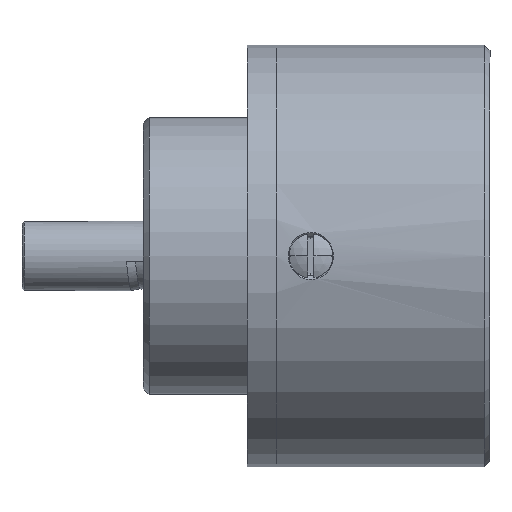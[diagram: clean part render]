
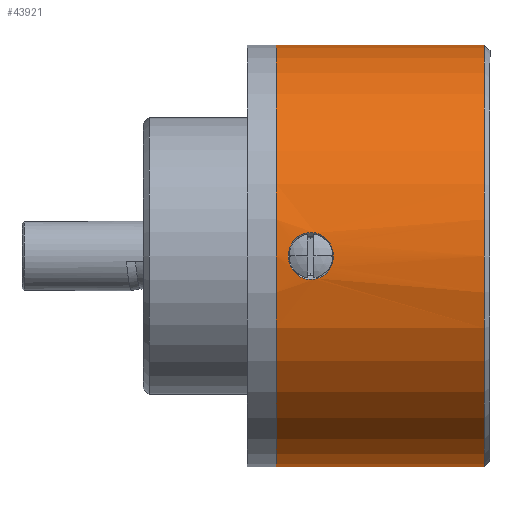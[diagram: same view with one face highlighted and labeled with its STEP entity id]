
A CAD part, front view. The second image highlights one B-rep face of the part: STEP entity #43921.
In plain terms, the highlighted cylindrical face has radius 18.25 mm (diameter 36.5 mm), a partial arc.
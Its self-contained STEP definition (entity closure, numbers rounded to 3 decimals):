
#65 = CARTESIAN_POINT ( 'NONE',  ( 24.9, -2.81, 14.723 ) ) ;
#436 = VECTOR ( 'NONE', #6276, 1000. ) ;
#998 = CARTESIAN_POINT ( 'NONE',  ( 25.649, -2.738, 16.353 ) ) ;
#1048 = CARTESIAN_POINT ( 'NONE',  ( 41.843, 15.44, -3.527 ) ) ;
#1175 = CARTESIAN_POINT ( 'NONE',  ( 28.588, -2.788, 15.628 ) ) ;
#2392 = EDGE_CURVE ( 'NONE', #6927, #11541, #6876, .T. ) ;
#2473 = EDGE_CURVE ( 'NONE', #23702, #40684, #12890, .T. ) ;
#2637 = EDGE_CURVE ( 'NONE', #23702, #16837, #33571, .T. ) ;
#2646 = EDGE_CURVE ( 'NONE', #40684, #25916, #14191, .T. ) ;
#2959 = AXIS2_PLACEMENT_3D ( 'NONE', #34904, #10128, #39040 ) ;
#3537 = CARTESIAN_POINT ( 'NONE',  ( 28.786, -2.81, 14.453 ) ) ;
#3670 = CARTESIAN_POINT ( 'NONE',  ( 24.9, -2.81, 14.723 ) ) ;
#4087 = CARTESIAN_POINT ( 'NONE',  ( 27.097, -2.695, 12.685 ) ) ;
#5216 = CARTESIAN_POINT ( 'NONE',  ( 26.217, -2.707, 16.656 ) ) ;
#5397 = CARTESIAN_POINT ( 'NONE',  ( 28.786, -2.81, 14.987 ) ) ;
#6115 = CARTESIAN_POINT ( 'NONE',  ( 23.843, 15.44, -3.527 ) ) ;
#6276 = DIRECTION ( 'NONE',  ( 1., 0., 0. ) ) ;
#6876 = B_SPLINE_CURVE_WITH_KNOTS ( 'NONE', 3,
 ( #17624, #13426, #17105, #46305, #21787, #50405, #25900, #998, #30065, #5216, #34181, #9425, #38334, #13614, #42423, #17804, #46471, #21953, #50568, #26076, #1175, #30235, #5397, #34369 ),
 .UNSPECIFIED., .F., .F.,
 ( 4, 2, 2, 2, 2, 2, 2, 2, 2, 2, 2, 4 ),
 ( 0., 0.031, 0.063, 0.125, 0.188, 0.219, 0.25, 0.313, 0.375, 0.406, 0.438, 0.5 ),
 .UNSPECIFIED. ) ;
#6927 = VERTEX_POINT ( 'NONE', #3670 ) ;
#8110 = CARTESIAN_POINT ( 'NONE',  ( 28.786, -2.81, 14.72 ) ) ;
#8229 = AXIS2_PLACEMENT_3D ( 'NONE', #14751, #43546, #18940 ) ;
#8283 = CARTESIAN_POINT ( 'NONE',  ( 26.332, -2.702, 12.738 ) ) ;
#8702 = CIRCLE ( 'NONE', #8229, 18.25 ) ;
#9425 = CARTESIAN_POINT ( 'NONE',  ( 26.588, -2.697, 16.747 ) ) ;
#9927 = DIRECTION ( 'NONE',  ( 0., 0., 1. ) ) ;
#10128 = DIRECTION ( 'NONE',  ( -1., 0., 0. ) ) ;
#11541 = VERTEX_POINT ( 'NONE', #11949 ) ;
#11949 = CARTESIAN_POINT ( 'NONE',  ( 28.786, -2.81, 14.72 ) ) ;
#12518 = CARTESIAN_POINT ( 'NONE',  ( 25.869, -2.724, 12.954 ) ) ;
#12586 = ORIENTED_EDGE ( 'NONE', *, *, #2637, .T. ) ;
#12890 = CIRCLE ( 'NONE', #2959, 18.25 ) ;
#13209 = EDGE_LOOP ( 'NONE', ( #14503, #12586, #46640, #50474 ) ) ;
#13426 = CARTESIAN_POINT ( 'NONE',  ( 24.9, -2.81, 14.857 ) ) ;
#13614 = CARTESIAN_POINT ( 'NONE',  ( 27.096, -2.695, 16.76 ) ) ;
#14191 = LINE ( 'NONE', #43477, #436 ) ;
#14503 = ORIENTED_EDGE ( 'NONE', *, *, #2473, .F. ) ;
#14751 = CARTESIAN_POINT ( 'NONE',  ( 41.843, 15.44, 14.723 ) ) ;
#15137 = ORIENTED_EDGE ( 'NONE', *, *, #2392, .T. ) ;
#16512 = CARTESIAN_POINT ( 'NONE',  ( 28.539, -2.782, 13.694 ) ) ;
#16690 = CARTESIAN_POINT ( 'NONE',  ( 25.558, -2.745, 13.188 ) ) ;
#16837 = VERTEX_POINT ( 'NONE', #1048 ) ;
#17105 = CARTESIAN_POINT ( 'NONE',  ( 24.912, -2.808, 14.991 ) ) ;
#17563 = FACE_OUTER_BOUND ( 'NONE', #13209, .T. ) ;
#17624 = CARTESIAN_POINT ( 'NONE',  ( 24.9, -2.81, 14.723 ) ) ;
#17804 = CARTESIAN_POINT ( 'NONE',  ( 27.822, -2.723, 16.503 ) ) ;
#18940 = DIRECTION ( 'NONE',  ( 0., 0., -1. ) ) ;
#20674 = CARTESIAN_POINT ( 'NONE',  ( 28.126, -2.745, 13.186 ) ) ;
#20855 = CARTESIAN_POINT ( 'NONE',  ( 25.145, -2.782, 13.696 ) ) ;
#21787 = CARTESIAN_POINT ( 'NONE',  ( 24.999, -2.798, 15.379 ) ) ;
#21953 = CARTESIAN_POINT ( 'NONE',  ( 28.307, -2.76, 16.069 ) ) ;
#22598 = VECTOR ( 'NONE', #31157, 1000. ) ;
#23702 = VERTEX_POINT ( 'NONE', #24993 ) ;
#24800 = CARTESIAN_POINT ( 'NONE',  ( 27.815, -2.724, 12.953 ) ) ;
#24973 = CARTESIAN_POINT ( 'NONE',  ( 24.9, -2.81, 14.455 ) ) ;
#24993 = CARTESIAN_POINT ( 'NONE',  ( 23.843, 15.44, -3.527 ) ) ;
#25539 = CARTESIAN_POINT ( 'NONE',  ( 23.843, 15.44, 32.973 ) ) ;
#25900 = CARTESIAN_POINT ( 'NONE',  ( 25.289, -2.768, 15.975 ) ) ;
#25916 = VERTEX_POINT ( 'NONE', #51829 ) ;
#26076 = CARTESIAN_POINT ( 'NONE',  ( 28.529, -2.781, 15.744 ) ) ;
#26217 = DIRECTION ( 'NONE',  ( 1., 0., 0. ) ) ;
#27757 = AXIS2_PLACEMENT_3D ( 'NONE', #46792, #26217, #9927 ) ;
#28274 = B_SPLINE_CURVE_WITH_KNOTS ( 'NONE', 3,
 ( #8110, #3537, #41150, #16512, #45226, #20674, #49308, #24800, #53395, #28947, #4087, #33116, #8283, #37242, #12518, #41321, #16690, #45409, #20855, #49464, #24973, #65 ),
 .UNSPECIFIED., .F., .F.,
 ( 4, 2, 2, 2, 2, 2, 2, 2, 2, 2, 4 ),
 ( 0.5, 0.563, 0.625, 0.656, 0.687, 0.75, 0.812, 0.844, 0.875, 0.937, 1. ),
 .UNSPECIFIED. ) ;
#28947 = CARTESIAN_POINT ( 'NONE',  ( 27.35, -2.702, 12.737 ) ) ;
#29835 = FACE_BOUND ( 'NONE', #51835, .T. ) ;
#30065 = CARTESIAN_POINT ( 'NONE',  ( 25.864, -2.723, 16.503 ) ) ;
#30235 = CARTESIAN_POINT ( 'NONE',  ( 28.736, -2.803, 15.256 ) ) ;
#31157 = DIRECTION ( 'NONE',  ( 1., 0., 0. ) ) ;
#33116 = CARTESIAN_POINT ( 'NONE',  ( 26.587, -2.695, 12.685 ) ) ;
#33571 = LINE ( 'NONE', #6115, #22598 ) ;
#33873 = ORIENTED_EDGE ( 'NONE', *, *, #52381, .T. ) ;
#34181 = CARTESIAN_POINT ( 'NONE',  ( 26.337, -2.703, 16.695 ) ) ;
#34313 = CYLINDRICAL_SURFACE ( 'NONE', #27757, 18.25 ) ;
#34369 = CARTESIAN_POINT ( 'NONE',  ( 28.786, -2.81, 14.72 ) ) ;
#34904 = CARTESIAN_POINT ( 'NONE',  ( 23.843, 15.44, 14.723 ) ) ;
#37242 = CARTESIAN_POINT ( 'NONE',  ( 25.98, -2.718, 12.892 ) ) ;
#38334 = CARTESIAN_POINT ( 'NONE',  ( 26.717, -2.695, 16.76 ) ) ;
#39040 = DIRECTION ( 'NONE',  ( 0., 0., -1. ) ) ;
#40684 = VERTEX_POINT ( 'NONE', #25539 ) ;
#41150 = CARTESIAN_POINT ( 'NONE',  ( 28.735, -2.803, 14.188 ) ) ;
#41321 = CARTESIAN_POINT ( 'NONE',  ( 25.657, -2.738, 13.103 ) ) ;
#42423 = CARTESIAN_POINT ( 'NONE',  ( 27.351, -2.702, 16.708 ) ) ;
#43477 = CARTESIAN_POINT ( 'NONE',  ( 23.843, 15.44, 32.973 ) ) ;
#43546 = DIRECTION ( 'NONE',  ( -1., 0., 0. ) ) ;
#43921 = ADVANCED_FACE ( 'NONE', ( #29835, #17563 ), #34313, .T. ) ;
#45226 = CARTESIAN_POINT ( 'NONE',  ( 28.397, -2.768, 13.47 ) ) ;
#45409 = CARTESIAN_POINT ( 'NONE',  ( 25.288, -2.768, 13.471 ) ) ;
#46305 = CARTESIAN_POINT ( 'NONE',  ( 24.962, -2.802, 15.252 ) ) ;
#46471 = CARTESIAN_POINT ( 'NONE',  ( 28.035, -2.738, 16.354 ) ) ;
#46640 = ORIENTED_EDGE ( 'NONE', *, *, #53382, .T. ) ;
#46792 = CARTESIAN_POINT ( 'NONE',  ( 23.843, 15.44, 14.723 ) ) ;
#49308 = CARTESIAN_POINT ( 'NONE',  ( 28.027, -2.738, 13.101 ) ) ;
#49464 = CARTESIAN_POINT ( 'NONE',  ( 24.95, -2.803, 14.19 ) ) ;
#50405 = CARTESIAN_POINT ( 'NONE',  ( 25.145, -2.782, 15.75 ) ) ;
#50474 = ORIENTED_EDGE ( 'NONE', *, *, #2646, .F. ) ;
#50568 = CARTESIAN_POINT ( 'NONE',  ( 28.388, -2.768, 15.966 ) ) ;
#51829 = CARTESIAN_POINT ( 'NONE',  ( 41.843, 15.44, 32.973 ) ) ;
#51835 = EDGE_LOOP ( 'NONE', ( #15137, #33873 ) ) ;
#52381 = EDGE_CURVE ( 'NONE', #11541, #6927, #28274, .T. ) ;
#53382 = EDGE_CURVE ( 'NONE', #16837, #25916, #8702, .T. ) ;
#53395 = CARTESIAN_POINT ( 'NONE',  ( 27.704, -2.718, 12.891 ) ) ;
